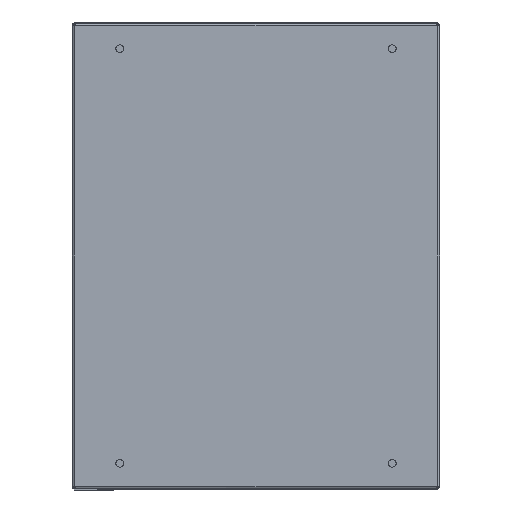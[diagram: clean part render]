
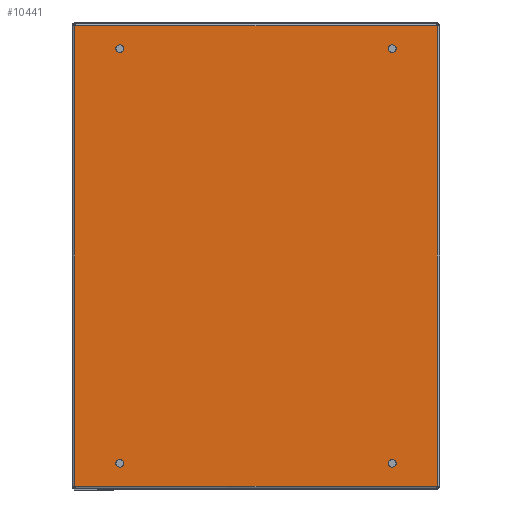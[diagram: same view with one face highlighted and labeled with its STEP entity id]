
A CAD part, front view. The second image highlights one B-rep face of the part: STEP entity #10441.
In plain terms, the highlighted planar face has unit normal (0, -1, 0).
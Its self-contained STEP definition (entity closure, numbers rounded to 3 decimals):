
#7 = VERTEX_POINT ( 'NONE', #8453 ) ;
#147 = EDGE_LOOP ( 'NONE', ( #10104, #1421 ) ) ;
#223 = CIRCLE ( 'NONE', #2151, 3.25 ) ;
#282 = LINE ( 'NONE', #895, #2564 ) ;
#869 = DIRECTION ( 'NONE',  ( 0., -1., 0. ) ) ;
#895 = CARTESIAN_POINT ( 'NONE',  ( 152.8, 0., 194.3 ) ) ;
#918 = AXIS2_PLACEMENT_3D ( 'NONE', #10639, #5121, #2409 ) ;
#945 = CARTESIAN_POINT ( 'NONE',  ( 115., 0., -175. ) ) ;
#1010 = EDGE_CURVE ( 'NONE', #8063, #6304, #6373, .T. ) ;
#1024 = AXIS2_PLACEMENT_3D ( 'NONE', #1964, #11236, #3783 ) ;
#1276 = DIRECTION ( 'NONE',  ( -1., 0., 0. ) ) ;
#1341 = VERTEX_POINT ( 'NONE', #8584 ) ;
#1421 = ORIENTED_EDGE ( 'NONE', *, *, #11578, .T. ) ;
#1549 = LINE ( 'NONE', #10852, #3542 ) ;
#1818 = DIRECTION ( 'NONE',  ( -1., 0., 0. ) ) ;
#1964 = CARTESIAN_POINT ( 'NONE',  ( -115., 0., -175. ) ) ;
#2023 = CARTESIAN_POINT ( 'NONE',  ( 152.8, 0., -194.3 ) ) ;
#2151 = AXIS2_PLACEMENT_3D ( 'NONE', #945, #6513, #9204 ) ;
#2239 = CARTESIAN_POINT ( 'NONE',  ( -115., 0., 175. ) ) ;
#2409 = DIRECTION ( 'NONE',  ( -1., 0., 0. ) ) ;
#2433 = CIRCLE ( 'NONE', #918, 3.25 ) ;
#2486 = VERTEX_POINT ( 'NONE', #10541 ) ;
#2541 = AXIS2_PLACEMENT_3D ( 'NONE', #10091, #4578, #9201 ) ;
#2564 = VECTOR ( 'NONE', #11757, 1000. ) ;
#2684 = EDGE_CURVE ( 'NONE', #7, #4299, #9312, .T. ) ;
#3542 = VECTOR ( 'NONE', #6297, 1000. ) ;
#3611 = CARTESIAN_POINT ( 'NONE',  ( 152.8, 0., -194.3 ) ) ;
#3733 = EDGE_LOOP ( 'NONE', ( #4613, #9673 ) ) ;
#3783 = DIRECTION ( 'NONE',  ( 1., 0., 0. ) ) ;
#3940 = CARTESIAN_POINT ( 'NONE',  ( -152.8, 0., 194.3 ) ) ;
#3984 = VERTEX_POINT ( 'NONE', #11205 ) ;
#4009 = ORIENTED_EDGE ( 'NONE', *, *, #8269, .T. ) ;
#4296 = FACE_OUTER_BOUND ( 'NONE', #8076, .T. ) ;
#4299 = VERTEX_POINT ( 'NONE', #3940 ) ;
#4393 = ORIENTED_EDGE ( 'NONE', *, *, #8735, .T. ) ;
#4541 = VECTOR ( 'NONE', #8315, 1000. ) ;
#4578 = DIRECTION ( 'NONE',  ( 0., 1., 0. ) ) ;
#4613 = ORIENTED_EDGE ( 'NONE', *, *, #6254, .T. ) ;
#4733 = ORIENTED_EDGE ( 'NONE', *, *, #7702, .T. ) ;
#4773 = VERTEX_POINT ( 'NONE', #5815 ) ;
#4993 = VECTOR ( 'NONE', #9770, 1000. ) ;
#5121 = DIRECTION ( 'NONE',  ( 0., 1., 0. ) ) ;
#5147 = VERTEX_POINT ( 'NONE', #11852 ) ;
#5172 = ORIENTED_EDGE ( 'NONE', *, *, #7593, .T. ) ;
#5205 = CARTESIAN_POINT ( 'NONE',  ( 118.25, 0., 175. ) ) ;
#5469 = DIRECTION ( 'NONE',  ( 1., 0., 0. ) ) ;
#5584 = CARTESIAN_POINT ( 'NONE',  ( 111.75, 0., 175. ) ) ;
#5815 = CARTESIAN_POINT ( 'NONE',  ( 111.75, 0., -175. ) ) ;
#5819 = EDGE_LOOP ( 'NONE', ( #4393, #4009 ) ) ;
#5910 = EDGE_LOOP ( 'NONE', ( #8952, #7190 ) ) ;
#5931 = DIRECTION ( 'NONE',  ( 0., 1., 0. ) ) ;
#5943 = DIRECTION ( 'NONE',  ( 0., 1., 0. ) ) ;
#5948 = EDGE_CURVE ( 'NONE', #2486, #8408, #6170, .T. ) ;
#5968 = DIRECTION ( 'NONE',  ( 0., 1., 0. ) ) ;
#6085 = CIRCLE ( 'NONE', #8089, 3.25 ) ;
#6086 = EDGE_CURVE ( 'NONE', #1341, #4773, #2433, .T. ) ;
#6170 = CIRCLE ( 'NONE', #8516, 3.25 ) ;
#6254 = EDGE_CURVE ( 'NONE', #6304, #8063, #9351, .T. ) ;
#6297 = DIRECTION ( 'NONE',  ( 1., 0., 0. ) ) ;
#6304 = VERTEX_POINT ( 'NONE', #5584 ) ;
#6373 = CIRCLE ( 'NONE', #9957, 3.25 ) ;
#6400 = DIRECTION ( 'NONE',  ( 0., 1., 0. ) ) ;
#6438 = CARTESIAN_POINT ( 'NONE',  ( -115., 0., -175. ) ) ;
#6513 = DIRECTION ( 'NONE',  ( 0., 1., 0. ) ) ;
#6543 = CIRCLE ( 'NONE', #9597, 3.25 ) ;
#6714 = LINE ( 'NONE', #2023, #4541 ) ;
#7016 = CARTESIAN_POINT ( 'NONE',  ( -152.8, 0., -194.3 ) ) ;
#7190 = ORIENTED_EDGE ( 'NONE', *, *, #6086, .T. ) ;
#7193 = ORIENTED_EDGE ( 'NONE', *, *, #7635, .T. ) ;
#7593 = EDGE_CURVE ( 'NONE', #7, #11729, #1549, .T. ) ;
#7635 = EDGE_CURVE ( 'NONE', #9550, #4299, #282, .T. ) ;
#7638 = FACE_BOUND ( 'NONE', #5819, .T. ) ;
#7702 = EDGE_CURVE ( 'NONE', #11729, #9550, #6714, .T. ) ;
#7758 = DIRECTION ( 'NONE',  ( 1., 0., 0. ) ) ;
#7765 = FACE_BOUND ( 'NONE', #3733, .T. ) ;
#8063 = VERTEX_POINT ( 'NONE', #5205 ) ;
#8076 = EDGE_LOOP ( 'NONE', ( #5172, #4733, #7193, #11554 ) ) ;
#8089 = AXIS2_PLACEMENT_3D ( 'NONE', #6438, #6400, #5469 ) ;
#8269 = EDGE_CURVE ( 'NONE', #5147, #3984, #9266, .T. ) ;
#8315 = DIRECTION ( 'NONE',  ( 0., 0., 1. ) ) ;
#8408 = VERTEX_POINT ( 'NONE', #8672 ) ;
#8453 = CARTESIAN_POINT ( 'NONE',  ( -152.8, 0., -194.3 ) ) ;
#8516 = AXIS2_PLACEMENT_3D ( 'NONE', #10519, #5943, #7758 ) ;
#8576 = CARTESIAN_POINT ( 'NONE',  ( 152.8, 0., 194.3 ) ) ;
#8584 = CARTESIAN_POINT ( 'NONE',  ( 118.25, 0., -175. ) ) ;
#8672 = CARTESIAN_POINT ( 'NONE',  ( -118.25, 0., 175. ) ) ;
#8735 = EDGE_CURVE ( 'NONE', #3984, #5147, #6085, .T. ) ;
#8952 = ORIENTED_EDGE ( 'NONE', *, *, #11823, .T. ) ;
#9070 = PLANE ( 'NONE',  #11830 ) ;
#9186 = FACE_BOUND ( 'NONE', #5910, .T. ) ;
#9201 = DIRECTION ( 'NONE',  ( -1., 0., 0. ) ) ;
#9204 = DIRECTION ( 'NONE',  ( -1., 0., 0. ) ) ;
#9266 = CIRCLE ( 'NONE', #1024, 3.25 ) ;
#9312 = LINE ( 'NONE', #7016, #4993 ) ;
#9333 = FACE_BOUND ( 'NONE', #147, .T. ) ;
#9351 = CIRCLE ( 'NONE', #2541, 3.25 ) ;
#9541 = DIRECTION ( 'NONE',  ( 1., 0., 0. ) ) ;
#9550 = VERTEX_POINT ( 'NONE', #8576 ) ;
#9597 = AXIS2_PLACEMENT_3D ( 'NONE', #2239, #5968, #9541 ) ;
#9673 = ORIENTED_EDGE ( 'NONE', *, *, #1010, .T. ) ;
#9770 = DIRECTION ( 'NONE',  ( 0., 0., 1. ) ) ;
#9957 = AXIS2_PLACEMENT_3D ( 'NONE', #10507, #5931, #1276 ) ;
#10091 = CARTESIAN_POINT ( 'NONE',  ( 115., 0., 175. ) ) ;
#10104 = ORIENTED_EDGE ( 'NONE', *, *, #5948, .T. ) ;
#10441 = ADVANCED_FACE ( 'NONE', ( #4296, #7638, #9333, #7765, #9186 ), #9070, .T. ) ;
#10507 = CARTESIAN_POINT ( 'NONE',  ( 115., 0., 175. ) ) ;
#10519 = CARTESIAN_POINT ( 'NONE',  ( -115., 0., 175. ) ) ;
#10541 = CARTESIAN_POINT ( 'NONE',  ( -111.75, 0., 175. ) ) ;
#10639 = CARTESIAN_POINT ( 'NONE',  ( 115., 0., -175. ) ) ;
#10852 = CARTESIAN_POINT ( 'NONE',  ( -152.8, 0., -194.3 ) ) ;
#11205 = CARTESIAN_POINT ( 'NONE',  ( -111.75, 0., -175. ) ) ;
#11236 = DIRECTION ( 'NONE',  ( 0., 1., 0. ) ) ;
#11554 = ORIENTED_EDGE ( 'NONE', *, *, #2684, .F. ) ;
#11578 = EDGE_CURVE ( 'NONE', #8408, #2486, #6543, .T. ) ;
#11729 = VERTEX_POINT ( 'NONE', #3611 ) ;
#11757 = DIRECTION ( 'NONE',  ( -1., 0., 0. ) ) ;
#11823 = EDGE_CURVE ( 'NONE', #4773, #1341, #223, .T. ) ;
#11830 = AXIS2_PLACEMENT_3D ( 'NONE', #11885, #869, #1818 ) ;
#11852 = CARTESIAN_POINT ( 'NONE',  ( -118.25, 0., -175. ) ) ;
#11885 = CARTESIAN_POINT ( 'NONE',  ( -152.8, 0., -196.5 ) ) ;
